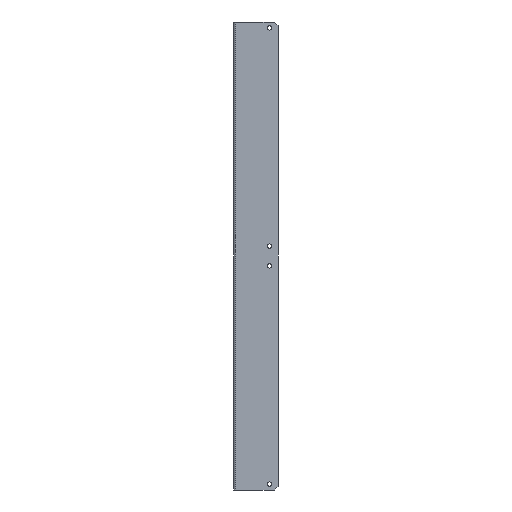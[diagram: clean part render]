
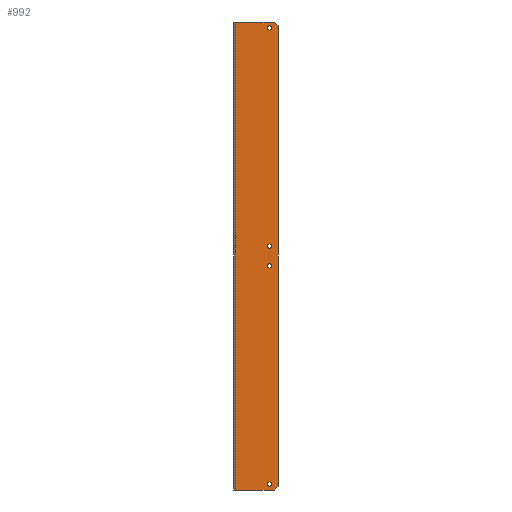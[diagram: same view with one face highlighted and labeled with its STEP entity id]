
A CAD part, front view. The second image highlights one B-rep face of the part: STEP entity #992.
In plain terms, the highlighted planar face has unit normal (0, -1, 0).
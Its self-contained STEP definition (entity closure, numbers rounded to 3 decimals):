
#11 = CARTESIAN_POINT ( 'NONE',  ( 50., -1., -295. ) ) ;
#13 = AXIS2_PLACEMENT_3D ( 'NONE', #231, #459, #679 ) ;
#31 = CARTESIAN_POINT ( 'NONE',  ( 55., -1., 290. ) ) ;
#49 = CARTESIAN_POINT ( 'NONE',  ( 55., -1., 290. ) ) ;
#55 = AXIS2_PLACEMENT_3D ( 'NONE', #545, #1310, #1301 ) ;
#68 = DIRECTION ( 'NONE',  ( 0., -1., 0. ) ) ;
#71 = FACE_BOUND ( 'NONE', #847, .T. ) ;
#84 = FACE_OUTER_BOUND ( 'NONE', #208, .T. ) ;
#89 = EDGE_LOOP ( 'NONE', ( #1022, #219 ) ) ;
#97 = CARTESIAN_POINT ( 'NONE',  ( 44., -1., -12.5 ) ) ;
#117 = VERTEX_POINT ( 'NONE', #442 ) ;
#124 = CARTESIAN_POINT ( 'NONE',  ( 44., -1., 15.25 ) ) ;
#131 = DIRECTION ( 'NONE',  ( 0., -1., 0. ) ) ;
#132 = LINE ( 'NONE', #1345, #1353 ) ;
#133 = CARTESIAN_POINT ( 'NONE',  ( 50., -1., -295. ) ) ;
#139 = DIRECTION ( 'NONE',  ( 0., 0., 1. ) ) ;
#143 = EDGE_CURVE ( 'NONE', #357, #1237, #310, .T. ) ;
#145 = EDGE_CURVE ( 'NONE', #342, #540, #857, .T. ) ;
#159 = CARTESIAN_POINT ( 'NONE',  ( 44., -1., -290.25 ) ) ;
#208 = EDGE_LOOP ( 'NONE', ( #558, #1025, #1348, #963, #961, #581 ) ) ;
#209 = FACE_BOUND ( 'NONE', #89, .T. ) ;
#219 = ORIENTED_EDGE ( 'NONE', *, *, #145, .F. ) ;
#221 = CARTESIAN_POINT ( 'NONE',  ( 44., -1., 9.75 ) ) ;
#227 = ORIENTED_EDGE ( 'NONE', *, *, #143, .T. ) ;
#231 = CARTESIAN_POINT ( 'NONE',  ( 44., -1., -287.5 ) ) ;
#263 = EDGE_CURVE ( 'NONE', #908, #1324, #482, .T. ) ;
#278 = EDGE_LOOP ( 'NONE', ( #1393, #561 ) ) ;
#286 = VERTEX_POINT ( 'NONE', #49 ) ;
#287 = DIRECTION ( 'NONE',  ( 0., 0., 1. ) ) ;
#310 = CIRCLE ( 'NONE', #13, 2.75 ) ;
#335 = VECTOR ( 'NONE', #1084, 1000. ) ;
#342 = VERTEX_POINT ( 'NONE', #1027 ) ;
#357 = VERTEX_POINT ( 'NONE', #381 ) ;
#366 = DIRECTION ( 'NONE',  ( 1., 0., 0. ) ) ;
#373 = LINE ( 'NONE', #31, #1018 ) ;
#381 = CARTESIAN_POINT ( 'NONE',  ( 44., -1., -284.75 ) ) ;
#413 = VERTEX_POINT ( 'NONE', #124 ) ;
#436 = DIRECTION ( 'NONE',  ( 0., 0., 1. ) ) ;
#437 = EDGE_CURVE ( 'NONE', #1033, #413, #1377, .T. ) ;
#442 = CARTESIAN_POINT ( 'NONE',  ( 50., -1., 295. ) ) ;
#459 = DIRECTION ( 'NONE',  ( 0., 1., 0. ) ) ;
#468 = EDGE_CURVE ( 'NONE', #1091, #871, #1098, .T. ) ;
#475 = AXIS2_PLACEMENT_3D ( 'NONE', #1313, #1105, #139 ) ;
#479 = EDGE_CURVE ( 'NONE', #286, #871, #557, .T. ) ;
#482 = LINE ( 'NONE', #1241, #1240 ) ;
#497 = AXIS2_PLACEMENT_3D ( 'NONE', #934, #1263, #287 ) ;
#504 = PLANE ( 'NONE',  #497 ) ;
#517 = AXIS2_PLACEMENT_3D ( 'NONE', #751, #1292, #436 ) ;
#540 = VERTEX_POINT ( 'NONE', #1089 ) ;
#543 = CARTESIAN_POINT ( 'NONE',  ( 55., -1., 295. ) ) ;
#545 = CARTESIAN_POINT ( 'NONE',  ( 44., -1., 287.5 ) ) ;
#557 = LINE ( 'NONE', #543, #651 ) ;
#558 = ORIENTED_EDGE ( 'NONE', *, *, #772, .T. ) ;
#561 = ORIENTED_EDGE ( 'NONE', *, *, #437, .F. ) ;
#567 = EDGE_CURVE ( 'NONE', #673, #1036, #1127, .T. ) ;
#581 = ORIENTED_EDGE ( 'NONE', *, *, #263, .T. ) ;
#618 = FACE_BOUND ( 'NONE', #278, .T. ) ;
#623 = CARTESIAN_POINT ( 'NONE',  ( 44., -1., 12.5 ) ) ;
#632 = CARTESIAN_POINT ( 'NONE',  ( 1., -1., -295. ) ) ;
#640 = FACE_BOUND ( 'NONE', #1361, .T. ) ;
#645 = EDGE_CURVE ( 'NONE', #1237, #357, #903, .T. ) ;
#650 = DIRECTION ( 'NONE',  ( 0., -1., 0. ) ) ;
#651 = VECTOR ( 'NONE', #989, 1000. ) ;
#670 = AXIS2_PLACEMENT_3D ( 'NONE', #97, #1044, #1156 ) ;
#673 = VERTEX_POINT ( 'NONE', #781 ) ;
#676 = EDGE_CURVE ( 'NONE', #286, #117, #373, .T. ) ;
#679 = DIRECTION ( 'NONE',  ( 0., 0., 1. ) ) ;
#701 = EDGE_CURVE ( 'NONE', #908, #117, #132, .T. ) ;
#751 = CARTESIAN_POINT ( 'NONE',  ( 44., -1., -12.5 ) ) ;
#765 = CARTESIAN_POINT ( 'NONE',  ( 44., -1., 12.5 ) ) ;
#772 = EDGE_CURVE ( 'NONE', #1324, #1091, #997, .T. ) ;
#781 = CARTESIAN_POINT ( 'NONE',  ( 44., -1., -9.75 ) ) ;
#789 = DIRECTION ( 'NONE',  ( 0., 0., 1. ) ) ;
#801 = AXIS2_PLACEMENT_3D ( 'NONE', #623, #68, #827 ) ;
#814 = CARTESIAN_POINT ( 'NONE',  ( 55., -1., -290. ) ) ;
#827 = DIRECTION ( 'NONE',  ( 0., 0., 1. ) ) ;
#834 = CARTESIAN_POINT ( 'NONE',  ( 1., -1., 295. ) ) ;
#837 = AXIS2_PLACEMENT_3D ( 'NONE', #765, #650, #868 ) ;
#847 = EDGE_LOOP ( 'NONE', ( #227, #933 ) ) ;
#857 = CIRCLE ( 'NONE', #1396, 2.75 ) ;
#868 = DIRECTION ( 'NONE',  ( 0., 0., 1. ) ) ;
#871 = VERTEX_POINT ( 'NONE', #814 ) ;
#903 = CIRCLE ( 'NONE', #475, 2.75 ) ;
#908 = VERTEX_POINT ( 'NONE', #834 ) ;
#913 = CIRCLE ( 'NONE', #801, 2.75 ) ;
#914 = CARTESIAN_POINT ( 'NONE',  ( 0., -1., -295. ) ) ;
#929 = EDGE_CURVE ( 'NONE', #1036, #673, #1103, .T. ) ;
#933 = ORIENTED_EDGE ( 'NONE', *, *, #645, .T. ) ;
#934 = CARTESIAN_POINT ( 'NONE',  ( 0., -1., 295. ) ) ;
#961 = ORIENTED_EDGE ( 'NONE', *, *, #701, .F. ) ;
#963 = ORIENTED_EDGE ( 'NONE', *, *, #676, .T. ) ;
#984 = ORIENTED_EDGE ( 'NONE', *, *, #929, .T. ) ;
#989 = DIRECTION ( 'NONE',  ( 0., 0., -1. ) ) ;
#992 = ADVANCED_FACE ( 'NONE', ( #209, #618, #640, #71, #84 ), #504, .F. ) ;
#997 = LINE ( 'NONE', #914, #1279 ) ;
#1018 = VECTOR ( 'NONE', #1234, 1000. ) ;
#1022 = ORIENTED_EDGE ( 'NONE', *, *, #1088, .F. ) ;
#1025 = ORIENTED_EDGE ( 'NONE', *, *, #468, .T. ) ;
#1027 = CARTESIAN_POINT ( 'NONE',  ( 44., -1., 284.75 ) ) ;
#1033 = VERTEX_POINT ( 'NONE', #221 ) ;
#1036 = VERTEX_POINT ( 'NONE', #1206 ) ;
#1044 = DIRECTION ( 'NONE',  ( 0., 1., 0. ) ) ;
#1084 = DIRECTION ( 'NONE',  ( 0.707, 0., 0.707 ) ) ;
#1088 = EDGE_CURVE ( 'NONE', #540, #342, #1184, .T. ) ;
#1089 = CARTESIAN_POINT ( 'NONE',  ( 44., -1., 290.25 ) ) ;
#1091 = VERTEX_POINT ( 'NONE', #11 ) ;
#1095 = CARTESIAN_POINT ( 'NONE',  ( 44., -1., 287.5 ) ) ;
#1098 = LINE ( 'NONE', #133, #335 ) ;
#1103 = CIRCLE ( 'NONE', #670, 2.75 ) ;
#1105 = DIRECTION ( 'NONE',  ( 0., 1., 0. ) ) ;
#1127 = CIRCLE ( 'NONE', #517, 2.75 ) ;
#1156 = DIRECTION ( 'NONE',  ( 0., 0., 1. ) ) ;
#1184 = CIRCLE ( 'NONE', #55, 2.75 ) ;
#1206 = CARTESIAN_POINT ( 'NONE',  ( 44., -1., -15.25 ) ) ;
#1227 = DIRECTION ( 'NONE',  ( 1., 0., 0. ) ) ;
#1234 = DIRECTION ( 'NONE',  ( -0.707, 0., 0.707 ) ) ;
#1237 = VERTEX_POINT ( 'NONE', #159 ) ;
#1240 = VECTOR ( 'NONE', #1254, 1000. ) ;
#1241 = CARTESIAN_POINT ( 'NONE',  ( 1., -1., 295. ) ) ;
#1254 = DIRECTION ( 'NONE',  ( 0., 0., -1. ) ) ;
#1263 = DIRECTION ( 'NONE',  ( 0., 1., 0. ) ) ;
#1279 = VECTOR ( 'NONE', #366, 1000. ) ;
#1292 = DIRECTION ( 'NONE',  ( 0., 1., 0. ) ) ;
#1301 = DIRECTION ( 'NONE',  ( 0., 0., 1. ) ) ;
#1310 = DIRECTION ( 'NONE',  ( 0., -1., 0. ) ) ;
#1313 = CARTESIAN_POINT ( 'NONE',  ( 44., -1., -287.5 ) ) ;
#1318 = EDGE_CURVE ( 'NONE', #413, #1033, #913, .T. ) ;
#1324 = VERTEX_POINT ( 'NONE', #632 ) ;
#1345 = CARTESIAN_POINT ( 'NONE',  ( 0., -1., 295. ) ) ;
#1348 = ORIENTED_EDGE ( 'NONE', *, *, #479, .F. ) ;
#1353 = VECTOR ( 'NONE', #1227, 1000. ) ;
#1359 = ORIENTED_EDGE ( 'NONE', *, *, #567, .T. ) ;
#1361 = EDGE_LOOP ( 'NONE', ( #1359, #984 ) ) ;
#1377 = CIRCLE ( 'NONE', #837, 2.75 ) ;
#1393 = ORIENTED_EDGE ( 'NONE', *, *, #1318, .F. ) ;
#1396 = AXIS2_PLACEMENT_3D ( 'NONE', #1095, #131, #789 ) ;
